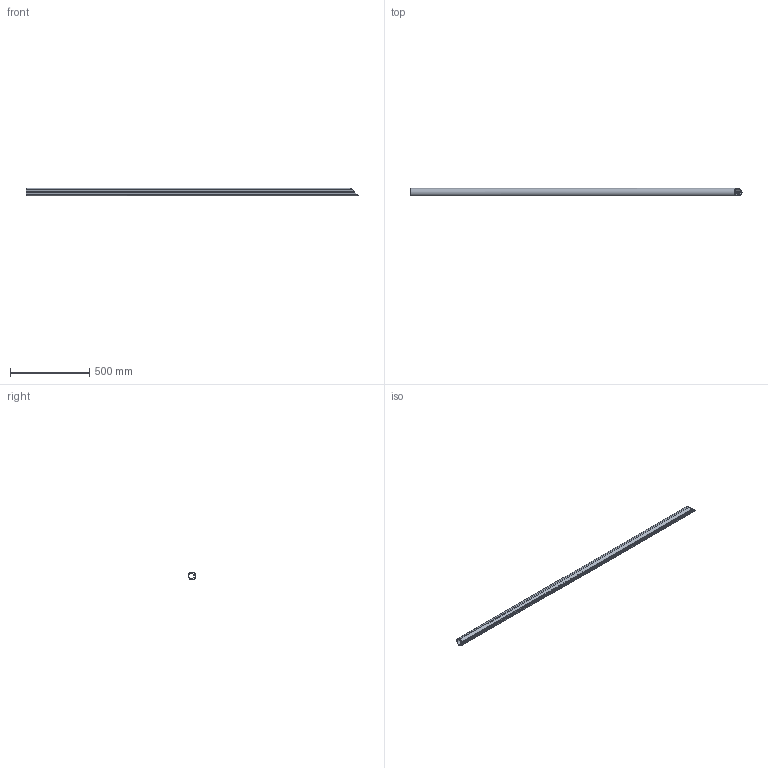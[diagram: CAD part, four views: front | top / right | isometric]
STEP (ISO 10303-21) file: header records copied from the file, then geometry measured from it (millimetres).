
FILE_DESCRIPTION(/* description */ (''),/* implementation_level */ '2;1');
FILE_NAME(/* name */ 'Pos128-HANDREGEL PROFIEL 50X47-Aluminium-1st',/* time_stamp */ '2024-08-06T11:49:42+02:00',/* author */ (''),/* organization */ (''),/* preprocessor_version */ 'ST-DEVELOPER v16.5',/* originating_system */ 'HiCAD 2024 2901.2 Build 361',/* authorisation */ '');
FILE_SCHEMA (('AUTOMOTIVE_DESIGN { 1 0 10303 214 1 1 1 1 }'));
Length unit declared in the file: millimetre
Products named in the file (1): Pos128-HANDREGEL PROFIEL 50X47-Aluminium-1st
Bounding box: 2092.46 x 46.5 x 50 mm (x, y, z)
Volume: 1137823.8 mm3; surface area: 770141.3 mm2
Topology: 1 solids, 1 shells, 44 faces, 126 edges, 84 vertices
Faces by surface type: cylinder 30, plane 14
Entity records: 2752 total; most frequent: DIRECTION 274, CARTESIAN_POINT 254, PRESENTATION_STYLE_ASSIGNMENT 253, COLOUR_RGB 253, DRAUGHTING_PRE_DEFINED_CURVE_FONT 252, CURVE_STYLE 252, OVER_RIDING_STYLED_ITEM 252, ORIENTED_EDGE 252
